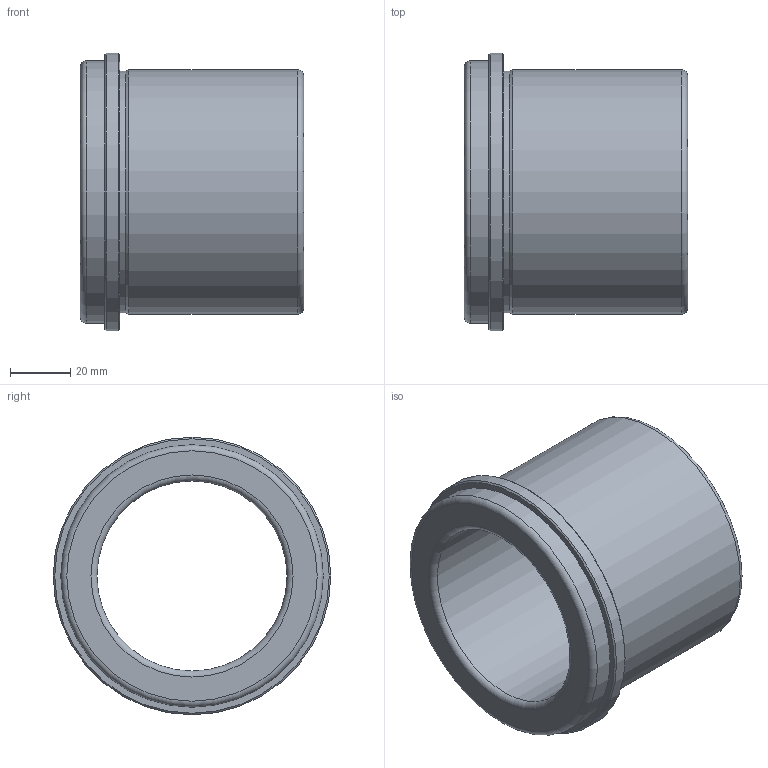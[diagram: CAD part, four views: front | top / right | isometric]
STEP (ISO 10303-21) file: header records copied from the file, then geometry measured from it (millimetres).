
FILE_DESCRIPTION(/* description */ ('Impex Ready, www.impex-ready.pl'),/* implementation_level */ '2;1');
FILE_NAME(/* name */ 'C:\Users\VIKKY\Nextcloud\SM\projekt 10 - części na stronę internetową\Pliki_3D_new\298 Tuleje BEG\298_Tuleje_BEG_STEP\BEG63C.ipt.step',/* time_stamp */ '2021-12-17T14:35:04+01:00',/* author */ ('SM'),/* organization */ (''),/* preprocessor_version */ 'ST-DEVELOPER v18.1',/* originating_system */ 'Autodesk Inventor 2021',/* authorisation */ '');
FILE_SCHEMA (('AUTOMOTIVE_DESIGN { 1 0 10303 214 3 1 1 }'));
Length unit declared in the file: millimetre
Products named in the file (1): BEG63C
Bounding box: 74 x 92 x 92 mm (x, y, z)
Volume: 163271.1 mm3; surface area: 40046.8 mm2
Topology: 1 solids, 1 shells, 16 faces, 32 edges, 20 vertices
Faces by surface type: cylinder 5, torus 4, plane 4, cone 3
Full cylindrical faces by diameter (mm): 63 x1, 80 x1, 81 x1, 87 x1, 92 x1
Entity records: 507 total; most frequent: DIRECTION 90, CARTESIAN_POINT 69, ORIENTED_EDGE 64, AXIS2_PLACEMENT_3D 41, EDGE_CURVE 32, CIRCLE 24, EDGE_LOOP 20, VERTEX_POINT 20
